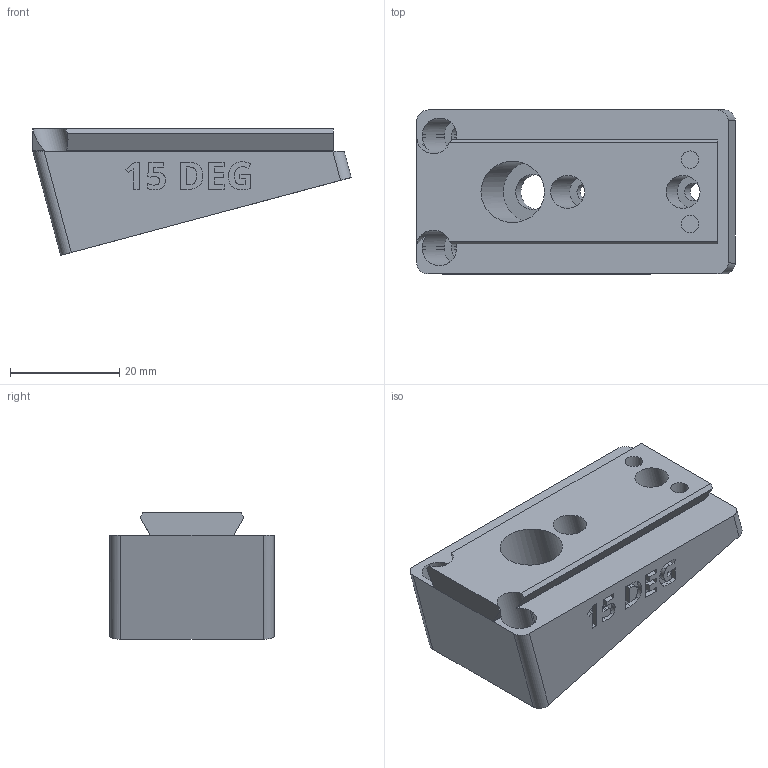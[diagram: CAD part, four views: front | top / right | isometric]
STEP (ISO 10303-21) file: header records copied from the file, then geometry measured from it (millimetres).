
FILE_DESCRIPTION(/* description */ ('STEP AP242 Edition 2','CAx-IF Rec.Pracs.---Representation and Presentation of Product Manufacturing Information (PMI)---4.0---2014-10-13','CAx-IF Rec.Pracs.---3D Tessellated Geometry---0.4---2014-09-14','2;1','CAx-IF Rec.Pracs.---User Defined Attributes---1.5---2016-08-15'),/* implementation_level */ '2;1');
FILE_NAME(/* name */ 'Camera Wedges - CAMERA MOUNTING WEDGE, POS, 15 DEG',/* time_stamp */ '2026-07-08T20:37:53Z',/* author */ (''),/* organization */ (''),/* preprocessor_version */ 'ST-DEVELOPER v20',/* originating_system */ 'ONSHAPE BY PTC INC, 1.217',/* authorisation */ ' ');
FILE_SCHEMA (('AP242_MANAGED_MODEL_BASED_3D_ENGINEERING_MIM_LF { 1 0 10303 442 3 1 4 }'));
Length unit declared in the file: metre
Products named in the file (1): CAMERA MOUNTING WEDGE, POS, 15 DEG
Bounding box: 58.23 x 30 x 23.16 mm (x, y, z)
Volume: 20058.2 mm3; surface area: 8202.9 mm2
Topology: 1 solids, 1 shells, 235 faces, 646 edges, 431 vertices
Faces by surface type: plane 145, cylinder 46, bspline 44
Full cylindrical faces by diameter (mm): 3.2 x4, 6 x2, 6.4 x1, 11.2 x1
Entity records: 7563 total; most frequent: CARTESIAN_POINT 1783, ORIENTED_EDGE 1270, DIRECTION 1035, EDGE_CURVE 635, LINE 443, VECTOR 443, VERTEX_POINT 428, AXIS2_PLACEMENT_3D 296
